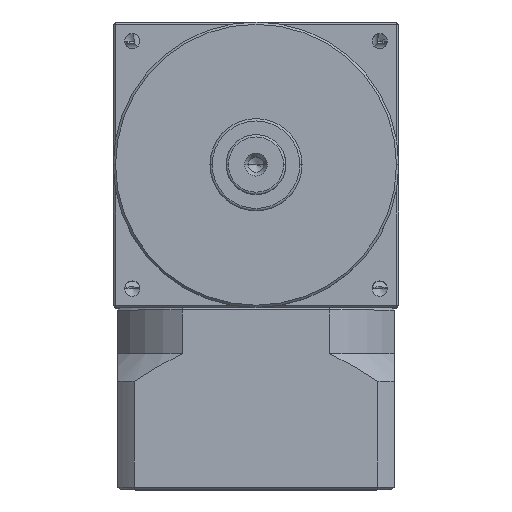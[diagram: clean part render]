
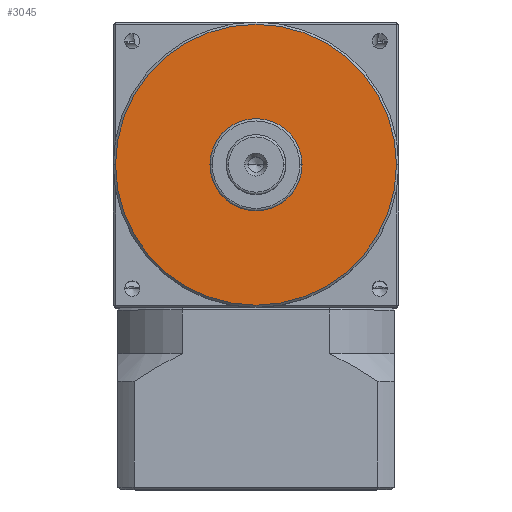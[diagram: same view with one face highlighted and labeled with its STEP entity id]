
A CAD part, top view. The second image highlights one B-rep face of the part: STEP entity #3045.
In plain terms, the highlighted planar face has unit normal (0, 0, 1).
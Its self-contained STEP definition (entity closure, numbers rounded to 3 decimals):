
#525 = CIRCLE ( 'NONE', #8370, 30.5 ) ;
#543 = CIRCLE ( 'NONE', #8376, 30.5 ) ;
#1728 = CARTESIAN_POINT ( 'NONE',  ( 0., 0., 48. ) ) ;
#1730 = PLANE ( 'NONE',  #3906 ) ;
#1733 = DIRECTION ( 'NONE',  ( 0., 0., 1. ) ) ;
#1734 = DIRECTION ( 'NONE',  ( 1., 0., 0. ) ) ;
#2491 = EDGE_LOOP ( 'NONE', ( #4862, #4863 ) ) ;
#2708 = FACE_OUTER_BOUND ( 'NONE', #2491, .T. ) ;
#3045 = ADVANCED_FACE ( 'NONE', ( #2708 ), #1730, .T. ) ;
#3476 = EDGE_CURVE ( 'NONE', #5156, #5154, #525, .T. ) ;
#3487 = EDGE_CURVE ( 'NONE', #5154, #5156, #543, .T. ) ;
#3906 = AXIS2_PLACEMENT_3D ( 'NONE', #1728, #1733, #1734 ) ;
#4862 = ORIENTED_EDGE ( 'NONE', *, *, #3487, .T. ) ;
#4863 = ORIENTED_EDGE ( 'NONE', *, *, #3476, .T. ) ;
#5154 = VERTEX_POINT ( 'NONE', #7071 ) ;
#5156 = VERTEX_POINT ( 'NONE', #7072 ) ;
#7071 = CARTESIAN_POINT ( 'NONE',  ( -30.5, 0., 48. ) ) ;
#7072 = CARTESIAN_POINT ( 'NONE',  ( 30.5, 0., 48. ) ) ;
#7654 = CARTESIAN_POINT ( 'NONE',  ( 0., 0., 48. ) ) ;
#7655 = DIRECTION ( 'NONE',  ( 0., 0., 1. ) ) ;
#7656 = DIRECTION ( 'NONE',  ( 1., 0., 0. ) ) ;
#7682 = CARTESIAN_POINT ( 'NONE',  ( 0., 0., 48. ) ) ;
#7683 = DIRECTION ( 'NONE',  ( 0., 0., 1. ) ) ;
#7684 = DIRECTION ( 'NONE',  ( 1., 0., 0. ) ) ;
#8370 = AXIS2_PLACEMENT_3D ( 'NONE', #7654, #7655, #7656 ) ;
#8376 = AXIS2_PLACEMENT_3D ( 'NONE', #7682, #7683, #7684 ) ;
